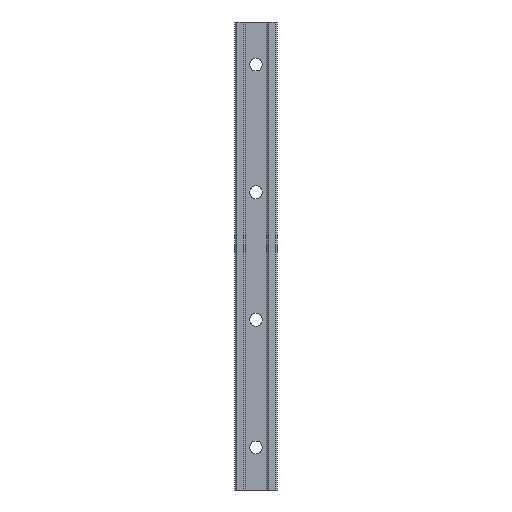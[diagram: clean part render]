
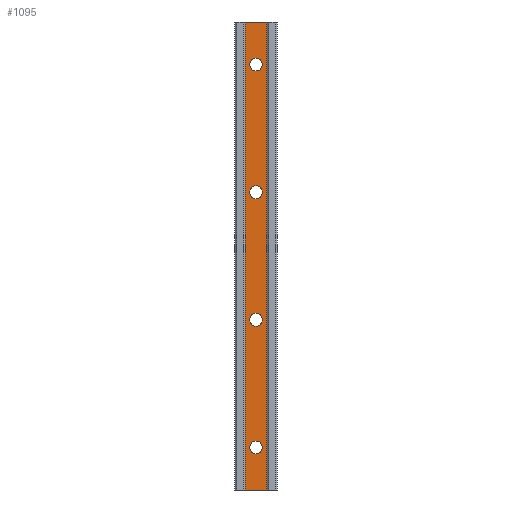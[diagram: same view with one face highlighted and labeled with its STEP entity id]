
A CAD part, front view. The second image highlights one B-rep face of the part: STEP entity #1095.
In plain terms, the highlighted planar face has unit normal (0, -1, 0).
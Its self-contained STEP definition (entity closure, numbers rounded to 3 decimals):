
#2 = DIRECTION ( 'NONE',  ( 0., 1., 0. ) ) ;
#14 = CARTESIAN_POINT ( 'NONE',  ( 0., 1., -90. ) ) ;
#30 = EDGE_LOOP ( 'NONE', ( #955, #270, #590, #1379 ) ) ;
#58 = CARTESIAN_POINT ( 'NONE',  ( -5., 1., -110. ) ) ;
#62 = VERTEX_POINT ( 'NONE', #615 ) ;
#95 = AXIS2_PLACEMENT_3D ( 'NONE', #351, #1042, #469 ) ;
#132 = EDGE_CURVE ( 'NONE', #587, #877, #1372, .T. ) ;
#135 = ORIENTED_EDGE ( 'NONE', *, *, #247, .T. ) ;
#184 = CARTESIAN_POINT ( 'NONE',  ( 0., 1., 27. ) ) ;
#193 = EDGE_LOOP ( 'NONE', ( #135, #1285 ) ) ;
#195 = CARTESIAN_POINT ( 'NONE',  ( 0., 1., -93. ) ) ;
#198 = DIRECTION ( 'NONE',  ( 0., 0., 1. ) ) ;
#206 = VERTEX_POINT ( 'NONE', #1109 ) ;
#207 = CARTESIAN_POINT ( 'NONE',  ( 5., 1., -110. ) ) ;
#244 = ORIENTED_EDGE ( 'NONE', *, *, #365, .T. ) ;
#247 = EDGE_CURVE ( 'NONE', #1198, #669, #940, .T. ) ;
#253 = AXIS2_PLACEMENT_3D ( 'NONE', #859, #1203, #1448 ) ;
#270 = ORIENTED_EDGE ( 'NONE', *, *, #132, .F. ) ;
#288 = VERTEX_POINT ( 'NONE', #1500 ) ;
#304 = ORIENTED_EDGE ( 'NONE', *, *, #700, .T. ) ;
#330 = DIRECTION ( 'NONE',  ( 0., 0., 1. ) ) ;
#341 = VECTOR ( 'NONE', #619, 1000. ) ;
#351 = CARTESIAN_POINT ( 'NONE',  ( 0., 1., 30. ) ) ;
#365 = EDGE_CURVE ( 'NONE', #206, #625, #1474, .T. ) ;
#369 = FACE_BOUND ( 'NONE', #193, .T. ) ;
#394 = DIRECTION ( 'NONE',  ( 0., 1., 0. ) ) ;
#431 = FACE_BOUND ( 'NONE', #1499, .T. ) ;
#434 = ORIENTED_EDGE ( 'NONE', *, *, #1274, .T. ) ;
#444 = VECTOR ( 'NONE', #1234, 1000. ) ;
#469 = DIRECTION ( 'NONE',  ( 0., 0., 1. ) ) ;
#489 = CIRCLE ( 'NONE', #1336, 3. ) ;
#509 = EDGE_CURVE ( 'NONE', #783, #1486, #1398, .T. ) ;
#517 = ORIENTED_EDGE ( 'NONE', *, *, #509, .T. ) ;
#518 = DIRECTION ( 'NONE',  ( 0., 0., 1. ) ) ;
#532 = DIRECTION ( 'NONE',  ( 0., 1., 0. ) ) ;
#580 = ORIENTED_EDGE ( 'NONE', *, *, #1487, .T. ) ;
#587 = VERTEX_POINT ( 'NONE', #724 ) ;
#590 = ORIENTED_EDGE ( 'NONE', *, *, #1032, .F. ) ;
#614 = PLANE ( 'NONE',  #253 ) ;
#615 = CARTESIAN_POINT ( 'NONE',  ( 0., 1., -27. ) ) ;
#618 = DIRECTION ( 'NONE',  ( 0., 0., 1. ) ) ;
#619 = DIRECTION ( 'NONE',  ( -1., 0., 0. ) ) ;
#625 = VERTEX_POINT ( 'NONE', #184 ) ;
#664 = EDGE_CURVE ( 'NONE', #669, #1198, #1287, .T. ) ;
#669 = VERTEX_POINT ( 'NONE', #1073 ) ;
#672 = AXIS2_PLACEMENT_3D ( 'NONE', #1077, #394, #1338 ) ;
#681 = FACE_BOUND ( 'NONE', #860, .T. ) ;
#695 = FACE_BOUND ( 'NONE', #872, .T. ) ;
#697 = VECTOR ( 'NONE', #1084, 1000. ) ;
#699 = VECTOR ( 'NONE', #518, 1000. ) ;
#700 = EDGE_CURVE ( 'NONE', #62, #288, #732, .T. ) ;
#710 = EDGE_CURVE ( 'NONE', #1443, #877, #822, .T. ) ;
#724 = CARTESIAN_POINT ( 'NONE',  ( -5., 1., -110. ) ) ;
#729 = DIRECTION ( 'NONE',  ( 0., 1., 0. ) ) ;
#732 = CIRCLE ( 'NONE', #672, 3. ) ;
#733 = LINE ( 'NONE', #766, #699 ) ;
#739 = AXIS2_PLACEMENT_3D ( 'NONE', #976, #532, #618 ) ;
#758 = VERTEX_POINT ( 'NONE', #207 ) ;
#766 = CARTESIAN_POINT ( 'NONE',  ( 5., 1., -110. ) ) ;
#783 = VERTEX_POINT ( 'NONE', #195 ) ;
#794 = CARTESIAN_POINT ( 'NONE',  ( 0., 1., 90. ) ) ;
#800 = AXIS2_PLACEMENT_3D ( 'NONE', #14, #729, #847 ) ;
#822 = LINE ( 'NONE', #1199, #697 ) ;
#840 = FACE_OUTER_BOUND ( 'NONE', #30, .T. ) ;
#847 = DIRECTION ( 'NONE',  ( 0., 0., 1. ) ) ;
#850 = CARTESIAN_POINT ( 'NONE',  ( -5., 1., -110. ) ) ;
#859 = CARTESIAN_POINT ( 'NONE',  ( -5., 1., -110. ) ) ;
#860 = EDGE_LOOP ( 'NONE', ( #244, #580 ) ) ;
#870 = DIRECTION ( 'NONE',  ( 0., 0., 1. ) ) ;
#872 = EDGE_LOOP ( 'NONE', ( #434, #517 ) ) ;
#877 = VERTEX_POINT ( 'NONE', #1265 ) ;
#892 = AXIS2_PLACEMENT_3D ( 'NONE', #1261, #2, #932 ) ;
#932 = DIRECTION ( 'NONE',  ( 0., 0., 1. ) ) ;
#940 = CIRCLE ( 'NONE', #1000, 3. ) ;
#955 = ORIENTED_EDGE ( 'NONE', *, *, #710, .T. ) ;
#976 = CARTESIAN_POINT ( 'NONE',  ( 0., 1., 90. ) ) ;
#1000 = AXIS2_PLACEMENT_3D ( 'NONE', #794, #1382, #330 ) ;
#1032 = EDGE_CURVE ( 'NONE', #758, #587, #1318, .T. ) ;
#1042 = DIRECTION ( 'NONE',  ( 0., 1., 0. ) ) ;
#1045 = CIRCLE ( 'NONE', #892, 3. ) ;
#1073 = CARTESIAN_POINT ( 'NONE',  ( 0., 1., 87. ) ) ;
#1077 = CARTESIAN_POINT ( 'NONE',  ( 0., 1., -30. ) ) ;
#1084 = DIRECTION ( 'NONE',  ( -1., 0., 0. ) ) ;
#1095 = ADVANCED_FACE ( 'NONE', ( #681, #431, #695, #369, #840 ), #614, .F. ) ;
#1109 = CARTESIAN_POINT ( 'NONE',  ( 0., 1., 33. ) ) ;
#1123 = ORIENTED_EDGE ( 'NONE', *, *, #1520, .T. ) ;
#1146 = DIRECTION ( 'NONE',  ( 0., 1., 0. ) ) ;
#1198 = VERTEX_POINT ( 'NONE', #1471 ) ;
#1199 = CARTESIAN_POINT ( 'NONE',  ( -5., 1., 110. ) ) ;
#1203 = DIRECTION ( 'NONE',  ( 0., 1., 0. ) ) ;
#1225 = CARTESIAN_POINT ( 'NONE',  ( 0., 1., -90. ) ) ;
#1234 = DIRECTION ( 'NONE',  ( 0., 0., 1. ) ) ;
#1261 = CARTESIAN_POINT ( 'NONE',  ( 0., 1., -30. ) ) ;
#1265 = CARTESIAN_POINT ( 'NONE',  ( -5., 1., 110. ) ) ;
#1274 = EDGE_CURVE ( 'NONE', #1486, #783, #1434, .T. ) ;
#1285 = ORIENTED_EDGE ( 'NONE', *, *, #664, .T. ) ;
#1287 = CIRCLE ( 'NONE', #739, 3. ) ;
#1318 = LINE ( 'NONE', #850, #341 ) ;
#1336 = AXIS2_PLACEMENT_3D ( 'NONE', #1377, #1146, #198 ) ;
#1338 = DIRECTION ( 'NONE',  ( 0., 0., 1. ) ) ;
#1372 = LINE ( 'NONE', #58, #444 ) ;
#1377 = CARTESIAN_POINT ( 'NONE',  ( 0., 1., 30. ) ) ;
#1379 = ORIENTED_EDGE ( 'NONE', *, *, #1430, .T. ) ;
#1382 = DIRECTION ( 'NONE',  ( 0., 1., 0. ) ) ;
#1398 = CIRCLE ( 'NONE', #800, 3. ) ;
#1430 = EDGE_CURVE ( 'NONE', #758, #1443, #733, .T. ) ;
#1434 = CIRCLE ( 'NONE', #1510, 3. ) ;
#1443 = VERTEX_POINT ( 'NONE', #1497 ) ;
#1448 = DIRECTION ( 'NONE',  ( 0., 0., 1. ) ) ;
#1460 = DIRECTION ( 'NONE',  ( 0., 1., 0. ) ) ;
#1471 = CARTESIAN_POINT ( 'NONE',  ( 0., 1., 93. ) ) ;
#1473 = CARTESIAN_POINT ( 'NONE',  ( 0., 1., -87. ) ) ;
#1474 = CIRCLE ( 'NONE', #95, 3. ) ;
#1486 = VERTEX_POINT ( 'NONE', #1473 ) ;
#1487 = EDGE_CURVE ( 'NONE', #625, #206, #489, .T. ) ;
#1497 = CARTESIAN_POINT ( 'NONE',  ( 5., 1., 110. ) ) ;
#1499 = EDGE_LOOP ( 'NONE', ( #304, #1123 ) ) ;
#1500 = CARTESIAN_POINT ( 'NONE',  ( 0., 1., -33. ) ) ;
#1510 = AXIS2_PLACEMENT_3D ( 'NONE', #1225, #1460, #870 ) ;
#1520 = EDGE_CURVE ( 'NONE', #288, #62, #1045, .T. ) ;
